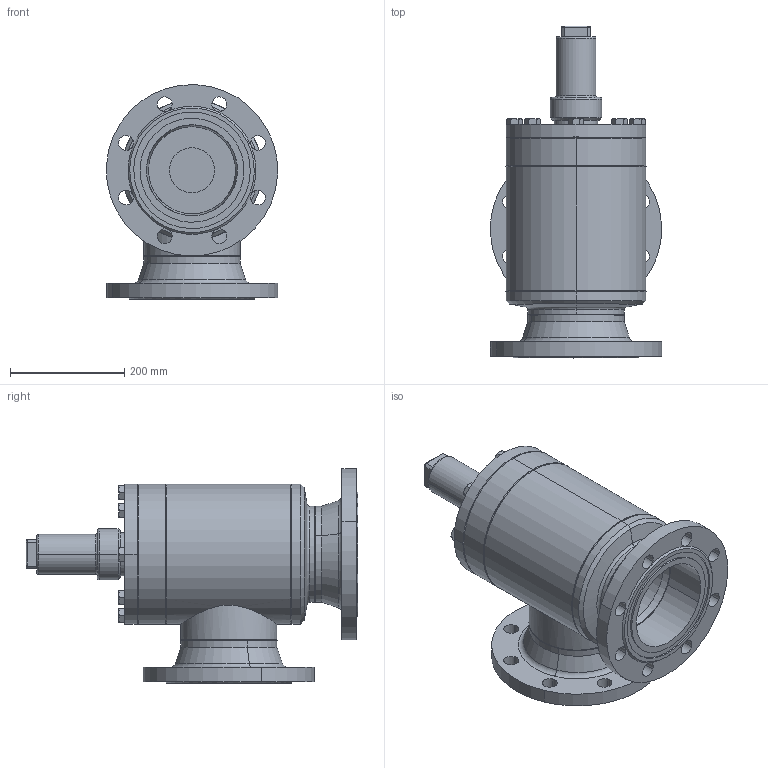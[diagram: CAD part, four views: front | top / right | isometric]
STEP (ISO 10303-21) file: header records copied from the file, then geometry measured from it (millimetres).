
FILE_DESCRIPTION (( 'STEP AP214' ), '1' );
FILE_NAME ('RVAK27420D21-DN150_DIN-FL-N_PS40.STEP', '2006-04-27T14:05:47', ( 'Herr Grams' ), ( 'AWP GmbH' ), 'SwSTEP 2.0', 'SolidWorks 2002296', '' );
FILE_SCHEMA (( 'AUTOMOTIVE_DESIGN' ));
Length unit declared in the file: millimetre
Products named in the file (15): RVAK27420D21-DN150_DIN-FL-N_PS40; Gehäuse-kpl16420-DN150_DIN_PS40_Standard; Gehäuse16300-DN150_Standard; Kopfstück16300-DN150_Standard; Boden16300-DN150_Standard; Rohrstutzen-A16300-DN150_R1_Standard; Flansch-DIN-Nut_PS40_DIN-Flansch-DN150_PS40-Nut; bead-DN150-4_Standard; bead-DN150-3_Standard; bead-DN150-2_Standard; bead-DN150-1_Standard; RVA29300E21_Deck-Schr-DN150_Standard; Deckel29300E21-DN150_Standard; Sechskantschraube-DIN933_M16x 45; Kappe16402_DN125-150_Standard
Assembly tree (22 placements, depth 3):
  RVAK27420D21-DN150_DIN-FL-N_PS40
    Kappe16402_DN125-150_Standard
    RVA29300E21_Deck-Schr-DN150_Standard
      Sechskantschraube-DIN933_M16x 45  x8
      Deckel29300E21-DN150_Standard
    Gehäuse-kpl16420-DN150_DIN_PS40_Standard
      Flansch-DIN-Nut_PS40_DIN-Flansch-DN150_PS40-Nut  x2
      bead-DN150-4_Standard
      bead-DN150-2_Standard
      bead-DN150-1_Standard
      Boden16300-DN150_Standard
      Kopfstück16300-DN150_Standard
      bead-DN150-3_Standard
      Gehäuse16300-DN150_Standard
      Rohrstutzen-A16300-DN150_R1_Standard
Bounding box: 299.71 x 581 x 375.86 mm (x, y, z)
Volume: 8996440.6 mm3; surface area: 1340352.9 mm2
Topology: 20 solids, 20 shells, 429 faces, 954 edges, 574 vertices
Faces by surface type: cylinder 141, cone 134, plane 122, torus 16, bspline 16
Entity records: 9589 total; most frequent: CARTESIAN_POINT 3839, DIRECTION 1102, ORIENTED_EDGE 972, EDGE_CURVE 486, AXIS2_PLACEMENT_3D 481, VERTEX_POINT 300, EDGE_LOOP 274, CIRCLE 254
